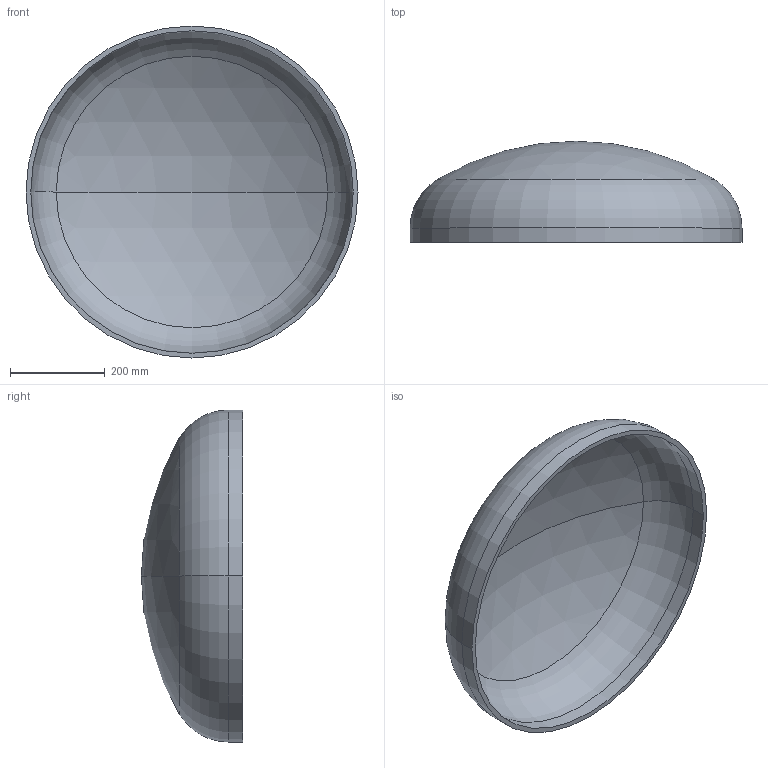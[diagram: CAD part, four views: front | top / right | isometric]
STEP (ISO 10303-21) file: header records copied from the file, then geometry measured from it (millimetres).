
FILE_DESCRIPTION (( 'STEP AP203' ), '1' );
FILE_NAME ('DIN 28013 Korbbogenform_-_Boden DIN 28013 - 700 x 30 - I - s=10.step', '2016-07-01T08:04:05', ( '' ), ( '' ), 'SwSTEP 2.0', 'SolidWorks 2013', '' );
FILE_SCHEMA (( 'CONFIG_CONTROL_DESIGN' ));
Length unit declared in the file: millimetre
Products named in the file (1): DIN 28013 Korbbogenform_-_Boden DIN 28013 - 700 x 30 - I - s=10
Bounding box: 700 x 213.22 x 700 mm (x, y, z)
Volume: 5901768 mm3; surface area: 1202239.6 mm2
Topology: 1 solids, 1 shells, 13 faces, 24 edges, 14 vertices
Faces by surface type: torus 4, cylinder 4, sphere 4, plane 1
Entity records: 407 total; most frequent: DIRECTION 72, CARTESIAN_POINT 52, ORIENTED_EDGE 48, AXIS2_PLACEMENT_3D 34, EDGE_CURVE 24, CIRCLE 20, VERTEX_POINT 14, EDGE_LOOP 14
